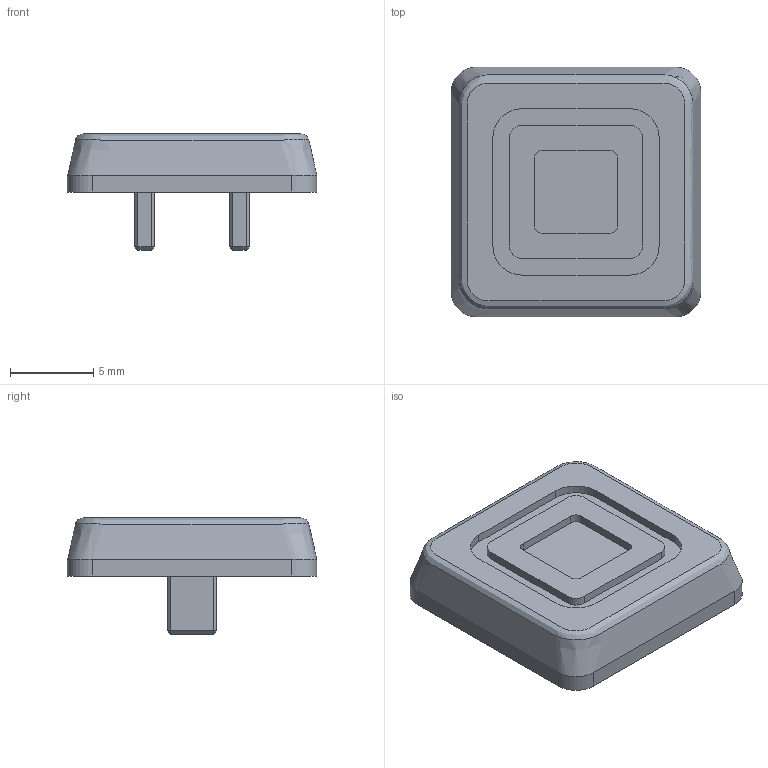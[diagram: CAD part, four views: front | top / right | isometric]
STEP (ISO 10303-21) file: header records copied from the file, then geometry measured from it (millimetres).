
FILE_DESCRIPTION(/* description */ (''),/* implementation_level */ '2;1');
FILE_NAME(/* name */ 'button_shutter.step',/* time_stamp */ '2026-07-06T12:56:02-05:00',/* author */ (''),/* organization */ (''),/* preprocessor_version */ 'ST-DEVELOPER v20.1',/* originating_system */ 'Autodesk Translation Framework v15.8.0.0',/* authorisation */ '');
FILE_SCHEMA (('AUTOMOTIVE_DESIGN { 1 0 10303 214 3 1 1 }'));
Length unit declared in the file: millimetre
Products named in the file (1): SaturnixLite_Hull
Bounding box: 15 x 15 x 7 mm (x, y, z)
Volume: 638 mm3; surface area: 738.2 mm2
Topology: 1 solids, 1 shells, 82 faces, 204 edges, 130 vertices
Faces by surface type: plane 60, cylinder 20, bspline 2
Entity records: 3302 total; most frequent: CARTESIAN_POINT 1311, ORIENTED_EDGE 408, DIRECTION 397, EDGE_CURVE 204, LINE 153, VECTOR 153, VERTEX_POINT 130, AXIS2_PLACEMENT_3D 122
